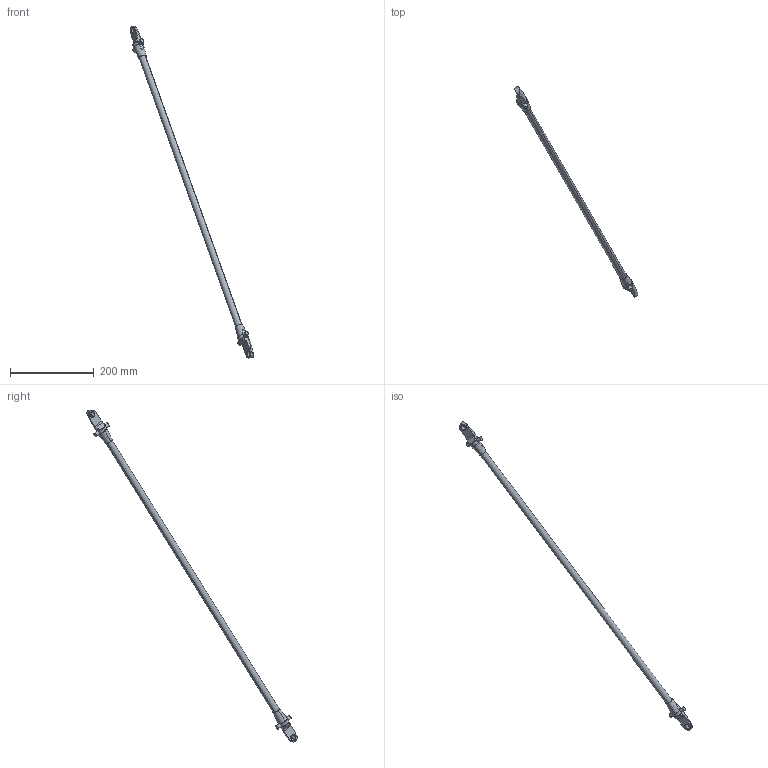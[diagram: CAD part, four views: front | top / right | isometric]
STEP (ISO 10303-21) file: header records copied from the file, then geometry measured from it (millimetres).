
FILE_DESCRIPTION (( 'STEP AP214' ), '1' );
FILE_NAME ('IRB365_1.5-1300_OmniCore_rev00_LINK_6_CAD.step', '2025-09-09T11:52:23', ( '' ), ( '' ), 'SwSTEP 2.0', 'SolidWorks 2024', '' );
FILE_SCHEMA (( 'AUTOMOTIVE_DESIGN' ));
Length unit declared in the file: millimetre
Products named in the file (1): IRB365_1.5-1300_OmniCore_rev00_LINK_6_CAD
Bounding box: 295.53 x 501.94 x 792.64 mm (x, y, z)
Volume: 217532 mm3; surface area: 53577.1 mm2
Topology: 1 solids, 1 shells, 60 faces, 146 edges, 92 vertices
Faces by surface type: cylinder 22, plane 18, torus 8, cone 8, sphere 4
Entity records: 3773 total; most frequent: CARTESIAN_POINT 1707, DIRECTION 300, ORIENTED_EDGE 280, EDGE_CURVE 140, AXIS2_PLACEMENT_3D 127, VERTEX_POINT 90, EDGE_LOOP 68, CIRCLE 66
